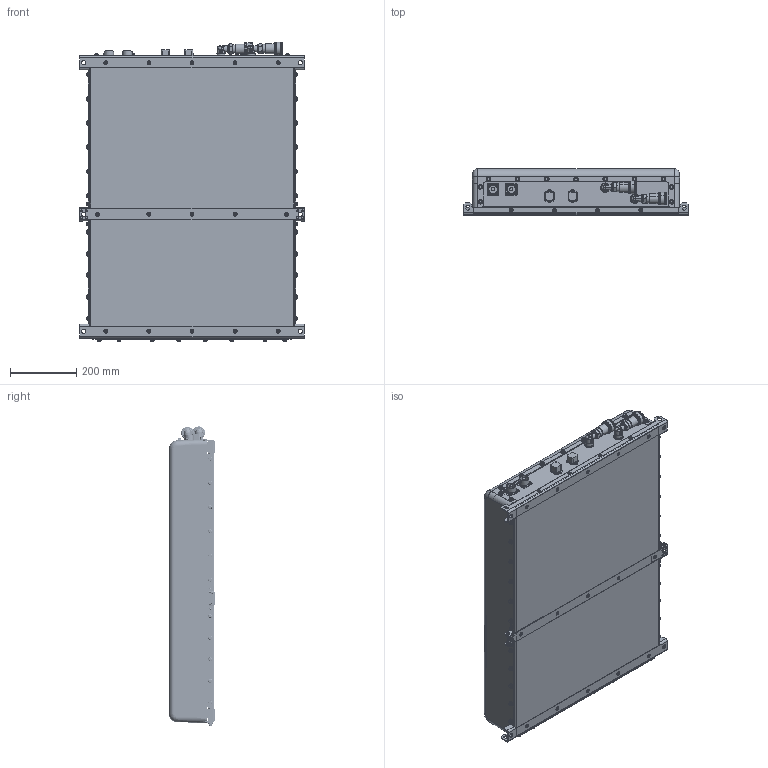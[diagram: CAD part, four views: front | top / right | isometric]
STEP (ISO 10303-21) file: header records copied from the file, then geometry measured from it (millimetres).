
FILE_DESCRIPTION (( 'STEP AP214' ), '1' );
FILE_NAME ('!ÐÃËÑ.563565.013-008 Ãàììà.STEP', '2026-08-24T13:26:02', ( '' ), ( '' ), 'SwSTEP 2.0', 'SolidWorks 2022', '' );
FILE_SCHEMA (( 'AUTOMOTIVE_DESIGN' ));
Length unit declared in the file: millimetre
Products named in the file (1): !РГЛС.563565.013-008 Гамма
Bounding box: 678 x 139.02 x 902.05 mm (x, y, z)
Volume: 49060707.6 mm3; surface area: 4121542.2 mm2
Topology: 154 solids, 154 shells, 4432 faces, 10100 edges, 6058 vertices
Faces by surface type: plane 1822, cylinder 1096, cone 774, bspline 486, torus 252, sphere 2
Entity records: 190779 total; most frequent: CARTESIAN_POINT 44283, ORIENTED_EDGE 19960, DIRECTION 19302, EDGE_CURVE 9980, AXIS2_PLACEMENT_3D 7443, VERTEX_POINT 6054, EDGE_LOOP 5018, UNCERTAINTY_MEASURE_WITH_UNIT 4588
